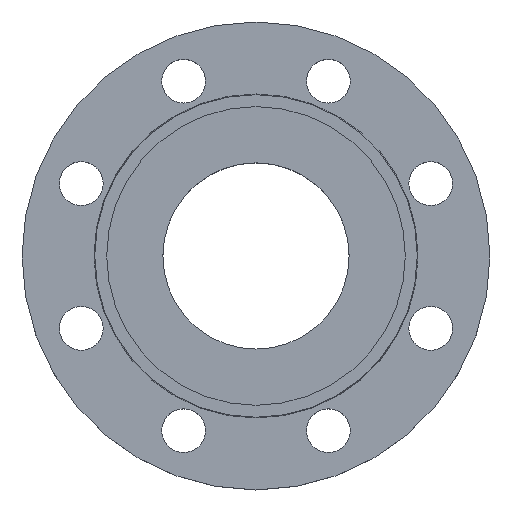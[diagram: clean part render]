
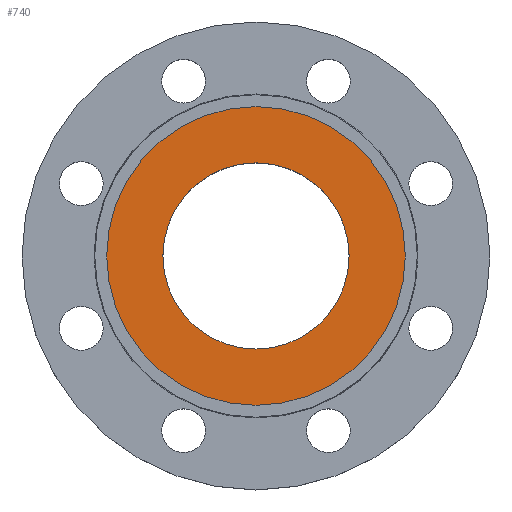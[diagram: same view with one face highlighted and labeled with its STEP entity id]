
A CAD part, top view. The second image highlights one B-rep face of the part: STEP entity #740.
In plain terms, the highlighted planar face has unit normal (0, 0, 1).
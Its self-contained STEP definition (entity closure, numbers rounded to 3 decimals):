
#5 = EDGE_CURVE ( 'NONE', #875, #922, #728, .T. ) ;
#14 = CARTESIAN_POINT ( 'NONE',  ( -75., 0., -4.5 ) ) ;
#59 = AXIS2_PLACEMENT_3D ( 'NONE', #700, #704, #367 ) ;
#97 = AXIS2_PLACEMENT_3D ( 'NONE', #333, #331, #330 ) ;
#131 = CARTESIAN_POINT ( 'NONE',  ( -46.753, 0., -4.5 ) ) ;
#186 = CARTESIAN_POINT ( 'NONE',  ( 46.753, 0., -4.5 ) ) ;
#306 = DIRECTION ( 'NONE',  ( -1., 0., 0. ) ) ;
#308 = DIRECTION ( 'NONE',  ( 0., 0., -1. ) ) ;
#309 = CARTESIAN_POINT ( 'NONE',  ( 0., 0., -4.5 ) ) ;
#330 = DIRECTION ( 'NONE',  ( 1., 0., 0. ) ) ;
#331 = DIRECTION ( 'NONE',  ( 0., 0., 1. ) ) ;
#333 = CARTESIAN_POINT ( 'NONE',  ( 0., 0., -4.5 ) ) ;
#367 = DIRECTION ( 'NONE',  ( 1., 0., 0. ) ) ;
#368 = FACE_OUTER_BOUND ( 'NONE', #963, .T. ) ;
#369 = FACE_BOUND ( 'NONE', #993, .T. ) ;
#379 = CIRCLE ( 'NONE', #649, 75. ) ;
#391 = CARTESIAN_POINT ( 'NONE',  ( 75., 0., -4.5 ) ) ;
#456 = DIRECTION ( 'NONE',  ( -1., 0., 0. ) ) ;
#457 = DIRECTION ( 'NONE',  ( 0., 0., -1. ) ) ;
#459 = CARTESIAN_POINT ( 'NONE',  ( 0., 0., -4.5 ) ) ;
#593 = EDGE_CURVE ( 'NONE', #1069, #663, #712, .T. ) ;
#649 = AXIS2_PLACEMENT_3D ( 'NONE', #309, #308, #306 ) ;
#663 = VERTEX_POINT ( 'NONE', #391 ) ;
#669 = CARTESIAN_POINT ( 'NONE',  ( 0., 0., -4.5 ) ) ;
#670 = DIRECTION ( 'NONE',  ( 0., 0., 1. ) ) ;
#671 = DIRECTION ( 'NONE',  ( 1., 0., 0. ) ) ;
#699 = PLANE ( 'NONE',  #59 ) ;
#700 = CARTESIAN_POINT ( 'NONE',  ( 75., 0., -4.5 ) ) ;
#704 = DIRECTION ( 'NONE',  ( 0., 0., 1. ) ) ;
#712 = CIRCLE ( 'NONE', #714, 75. ) ;
#714 = AXIS2_PLACEMENT_3D ( 'NONE', #459, #457, #456 ) ;
#727 = AXIS2_PLACEMENT_3D ( 'NONE', #669, #670, #671 ) ;
#728 = CIRCLE ( 'NONE', #727, 46.753 ) ;
#740 = ADVANCED_FACE ( 'NONE', ( #369, #368 ), #699, .T. ) ;
#745 = CIRCLE ( 'NONE', #97, 46.753 ) ;
#771 = EDGE_CURVE ( 'NONE', #922, #875, #745, .T. ) ;
#790 = EDGE_CURVE ( 'NONE', #663, #1069, #379, .T. ) ;
#836 = ORIENTED_EDGE ( 'NONE', *, *, #5, .F. ) ;
#837 = ORIENTED_EDGE ( 'NONE', *, *, #790, .F. ) ;
#875 = VERTEX_POINT ( 'NONE', #186 ) ;
#884 = ORIENTED_EDGE ( 'NONE', *, *, #771, .F. ) ;
#922 = VERTEX_POINT ( 'NONE', #131 ) ;
#963 = EDGE_LOOP ( 'NONE', ( #1061, #837 ) ) ;
#993 = EDGE_LOOP ( 'NONE', ( #836, #884 ) ) ;
#1061 = ORIENTED_EDGE ( 'NONE', *, *, #593, .F. ) ;
#1069 = VERTEX_POINT ( 'NONE', #14 ) ;
